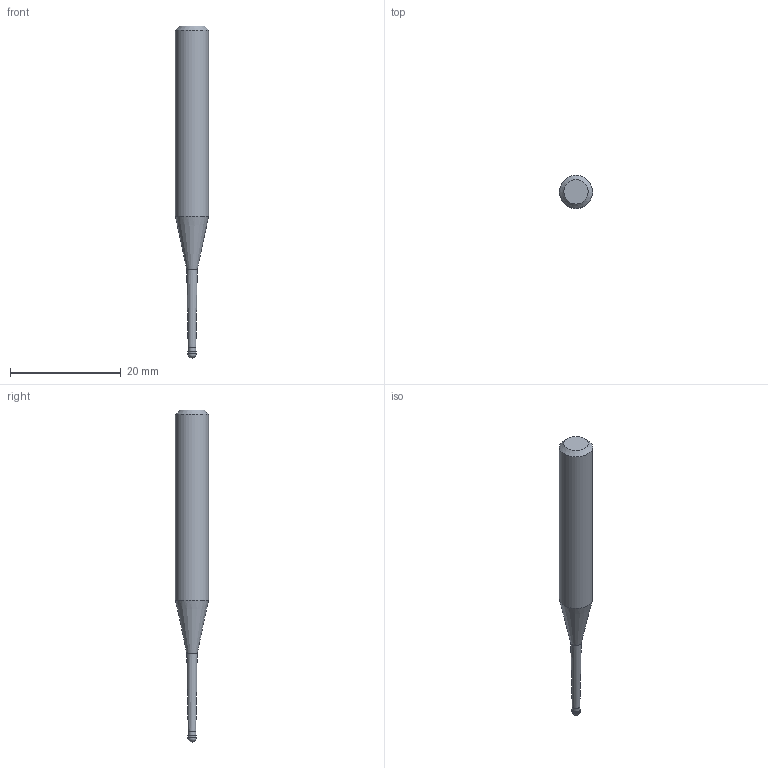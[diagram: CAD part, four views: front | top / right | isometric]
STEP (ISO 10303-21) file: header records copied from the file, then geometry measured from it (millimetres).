
FILE_DESCRIPTION((''),'2;1');
FILE_NAME('C:\Users\nsx150\AppData\Local\Temp\Mastercam 2021\E0ENTZRV18\TEMP.step','2021-09-02T09:56:27',(''),(''),'STEP Write','Mastercam 2021 ... CNC Software, Inc.','');
FILE_SCHEMA(('AUTOMOTIVE_DESIGN'));
Length unit declared in the file: millimetre
Products named in the file (1): None
Bounding box: 6 x 6 x 60 mm (x, y, z)
Volume: 1127.6 mm3; surface area: 873.4 mm2
Topology: 2 solids, 2 shells, 10 faces, 16 edges, 9 vertices
Faces by surface type: plane 3, cylinder 3, cone 3, sphere 1
Full cylindrical faces by diameter (mm): 1.39 x1, 1.5 x1, 6 x1
Entity records: 232 total; most frequent: DIRECTION 40, CARTESIAN_POINT 28, AXIS2_PLACEMENT_3D 20, ORIENTED_EDGE 16, EDGE_LOOP 16, STYLED_ITEM 13, ADVANCED_FACE 10, FACE_BOUND 9
